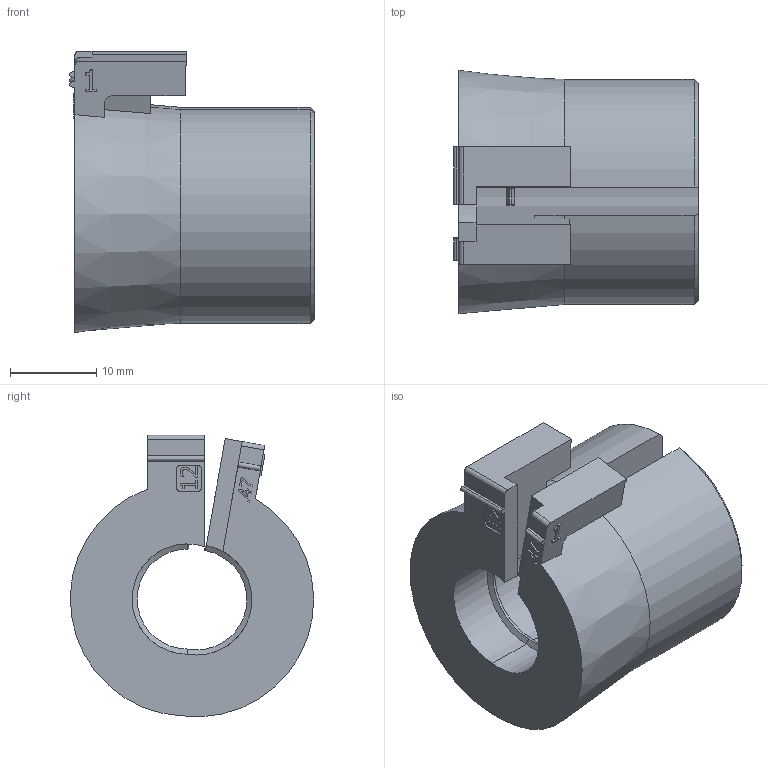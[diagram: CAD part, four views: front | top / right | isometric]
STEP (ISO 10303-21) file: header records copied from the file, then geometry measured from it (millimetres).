
FILE_DESCRIPTION(/* description */ (''),/* implementation_level */ '2;1');
FILE_NAME(/* name */ 'C:\SapWorkDir\Inventor\MP1\ConvertTempPath\87_12_121356_00_A_220530_KDT-X 12.stp',/* time_stamp */ '2022-05-31T15:49:35+02:00',/* author */ ('BAUER'),/* organization */ (''),/* preprocessor_version */ 'ST-DEVELOPER v16.13',/* originating_system */ 'Autodesk Inventor 2018',/* authorisation */ '');
FILE_SCHEMA (('AUTOMOTIVE_DESIGN { 1 0 10303 214 3 1 1 }'));
Length unit declared in the file: millimetre
Products named in the file (1): 121356
Bounding box: 28.4 x 28.25 x 32.65 mm (x, y, z)
Volume: 11107.8 mm3; surface area: 5045.4 mm2
Topology: 1 solids, 1 shells, 154 faces, 414 edges, 270 vertices
Faces by surface type: plane 106, cylinder 24, bspline 16, cone 8
Entity records: 4941 total; most frequent: CARTESIAN_POINT 1062, ORIENTED_EDGE 828, DIRECTION 711, EDGE_CURVE 414, LINE 317, VECTOR 317, VERTEX_POINT 270, AXIS2_PLACEMENT_3D 197
